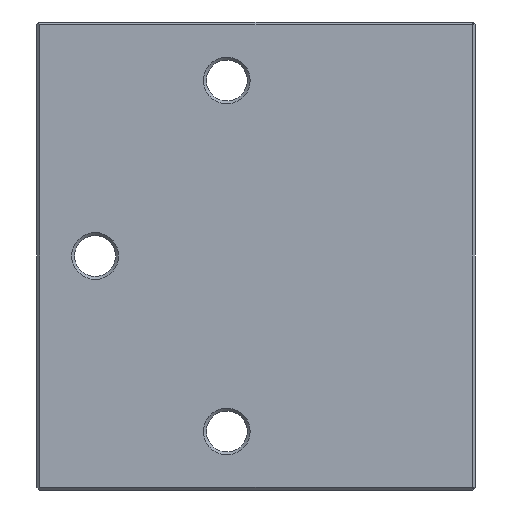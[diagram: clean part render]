
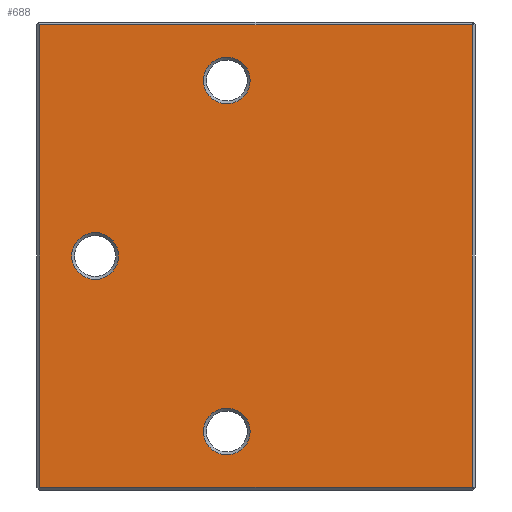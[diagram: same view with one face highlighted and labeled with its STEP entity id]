
A CAD part, front view. The second image highlights one B-rep face of the part: STEP entity #688.
In plain terms, the highlighted planar face has unit normal (0, -1, 0).
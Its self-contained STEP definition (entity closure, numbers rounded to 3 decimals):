
#44=FACE_BOUND('',#116,.T.);
#45=FACE_BOUND('',#117,.T.);
#46=FACE_BOUND('',#118,.T.);
#53=PLANE('',#751);
#74=FACE_OUTER_BOUND('',#115,.T.);
#115=EDGE_LOOP('',(#456,#457,#458,#459));
#116=EDGE_LOOP('',(#460));
#117=EDGE_LOOP('',(#461));
#118=EDGE_LOOP('',(#462));
#165=LINE('',#1060,#216);
#166=LINE('',#1062,#217);
#167=LINE('',#1064,#218);
#168=LINE('',#1065,#219);
#216=VECTOR('',#842,10.);
#217=VECTOR('',#843,10.);
#218=VECTOR('',#844,10.);
#219=VECTOR('',#845,10.);
#266=CIRCLE('',#749,8.);
#268=CIRCLE('',#752,8.);
#269=CIRCLE('',#753,8.);
#298=VERTEX_POINT('',#1052);
#300=VERTEX_POINT('',#1058);
#301=VERTEX_POINT('',#1059);
#302=VERTEX_POINT('',#1061);
#303=VERTEX_POINT('',#1063);
#304=VERTEX_POINT('',#1066);
#305=VERTEX_POINT('',#1068);
#357=EDGE_CURVE('',#298,#298,#266,.T.);
#360=EDGE_CURVE('',#300,#301,#165,.T.);
#361=EDGE_CURVE('',#302,#300,#166,.T.);
#362=EDGE_CURVE('',#303,#302,#167,.T.);
#363=EDGE_CURVE('',#301,#303,#168,.T.);
#364=EDGE_CURVE('',#304,#304,#268,.T.);
#365=EDGE_CURVE('',#305,#305,#269,.T.);
#456=ORIENTED_EDGE('',*,*,#360,.F.);
#457=ORIENTED_EDGE('',*,*,#361,.F.);
#458=ORIENTED_EDGE('',*,*,#362,.F.);
#459=ORIENTED_EDGE('',*,*,#363,.F.);
#460=ORIENTED_EDGE('',*,*,#364,.F.);
#461=ORIENTED_EDGE('',*,*,#365,.F.);
#462=ORIENTED_EDGE('',*,*,#357,.F.);
#688=ADVANCED_FACE('',(#74,#44,#45,#46),#53,.T.);
#749=AXIS2_PLACEMENT_3D('',#1053,#835,#836);
#751=AXIS2_PLACEMENT_3D('',#1057,#840,#841);
#752=AXIS2_PLACEMENT_3D('',#1067,#846,#847);
#753=AXIS2_PLACEMENT_3D('',#1069,#848,#849);
#835=DIRECTION('center_axis',(0.,-1.,0.));
#836=DIRECTION('ref_axis',(1.,0.,0.));
#840=DIRECTION('center_axis',(0.,-1.,0.));
#841=DIRECTION('ref_axis',(1.,0.,0.));
#842=DIRECTION('',(-1.,0.,0.));
#843=DIRECTION('',(0.,0.,-1.));
#844=DIRECTION('',(1.,0.,0.));
#845=DIRECTION('',(0.,0.,1.));
#846=DIRECTION('center_axis',(0.,-1.,0.));
#847=DIRECTION('ref_axis',(1.,0.,0.));
#848=DIRECTION('center_axis',(0.,-1.,0.));
#849=DIRECTION('ref_axis',(1.,0.,0.));
#1052=CARTESIAN_POINT('',(12.,0.,80.));
#1053=CARTESIAN_POINT('Origin',(20.,0.,80.));
#1057=CARTESIAN_POINT('Origin',(1.,0.,0.));
#1058=CARTESIAN_POINT('',(149.,0.,1.));
#1059=CARTESIAN_POINT('',(1.,0.,1.));
#1060=CARTESIAN_POINT('',(38.,0.,1.));
#1061=CARTESIAN_POINT('',(149.,0.,159.));
#1062=CARTESIAN_POINT('',(149.,0.,0.));
#1063=CARTESIAN_POINT('',(1.,0.,159.));
#1064=CARTESIAN_POINT('',(38.,0.,159.));
#1065=CARTESIAN_POINT('',(1.,0.,0.));
#1066=CARTESIAN_POINT('',(57.,0.,20.));
#1067=CARTESIAN_POINT('Origin',(65.,0.,20.));
#1068=CARTESIAN_POINT('',(57.,0.,140.));
#1069=CARTESIAN_POINT('Origin',(65.,0.,140.));
